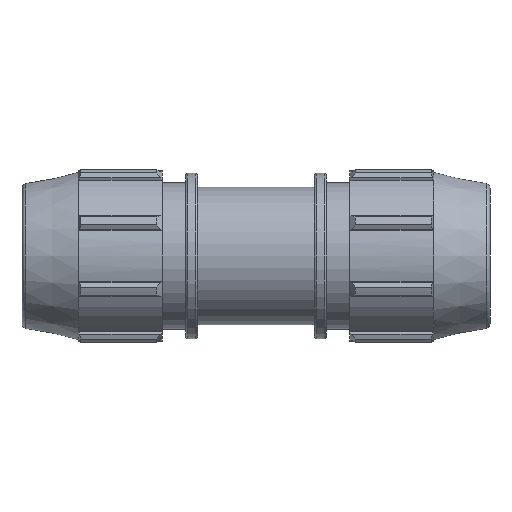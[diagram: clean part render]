
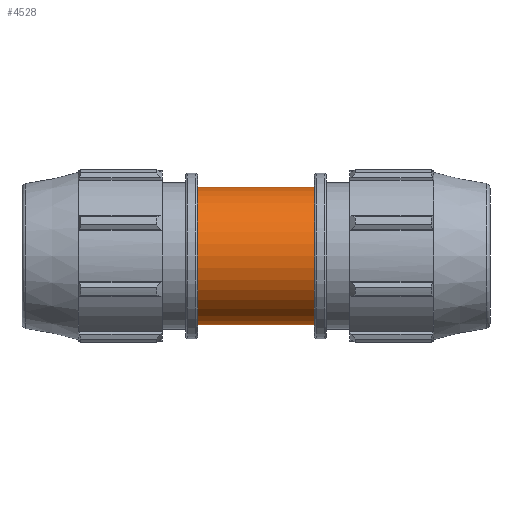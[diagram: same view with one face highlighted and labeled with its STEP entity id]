
A CAD part, front view. The second image highlights one B-rep face of the part: STEP entity #4528.
In plain terms, the highlighted cylindrical face has radius 24.003 mm (diameter 48.006 mm), a full revolution.
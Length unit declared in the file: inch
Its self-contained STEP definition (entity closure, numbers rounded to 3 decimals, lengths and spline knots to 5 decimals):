
#250=FACE_BOUND('',#1301,.T.);
#267=LINE('',#6711,#633);
#633=VECTOR('',#5263,0.945);
#998=CYLINDRICAL_SURFACE('',#4785,0.945);
#1065=FACE_OUTER_BOUND('',#1300,.T.);
#1300=EDGE_LOOP('',(#2944,#2945,#2946,#2947,#2948,#2949));
#1301=EDGE_LOOP('',(#2950));
#1550=B_SPLINE_CURVE_WITH_KNOTS('',3,(#6676,#6677,#6678,#6679,#6680,#6681,
#6682,#6683,#6684,#6685,#6686,#6687,#6688,#6689,#6690,#6691,#6692,#6693,
#6694,#6695,#6696),.UNSPECIFIED.,.T.,.F.,(4,1,1,1,1,1,1,1,1,1,1,1,1,1,1,
1,1,1,4),(-8.85278,-8.53661,-8.22044,-7.5881,
-6.74498,-6.32341,-5.48029,-5.05873,
-4.63717,-4.21561,-3.79405,-3.37249,
-2.52937,-2.21319,-1.89702,-1.26468,
-0.63234,-0.31617,0.),.UNSPECIFIED.);
#1570=CIRCLE('',#4786,0.945);
#1571=CIRCLE('',#4787,0.945);
#1572=CIRCLE('',#4788,0.945);
#1573=CIRCLE('',#4789,0.945);
#1793=VERTEX_POINT('',#6647);
#1799=VERTEX_POINT('',#6706);
#1800=VERTEX_POINT('',#6707);
#1801=VERTEX_POINT('',#6710);
#1802=VERTEX_POINT('',#6712);
#2255=EDGE_CURVE('',#1793,#1793,#1550,.T.);
#2260=EDGE_CURVE('',#1799,#1800,#1570,.T.);
#2261=EDGE_CURVE('',#1800,#1799,#1571,.T.);
#2262=EDGE_CURVE('',#1800,#1801,#267,.T.);
#2263=EDGE_CURVE('',#1801,#1802,#1572,.T.);
#2264=EDGE_CURVE('',#1802,#1801,#1573,.T.);
#2944=ORIENTED_EDGE('',*,*,#2260,.F.);
#2945=ORIENTED_EDGE('',*,*,#2261,.F.);
#2946=ORIENTED_EDGE('',*,*,#2262,.T.);
#2947=ORIENTED_EDGE('',*,*,#2263,.T.);
#2948=ORIENTED_EDGE('',*,*,#2264,.T.);
#2949=ORIENTED_EDGE('',*,*,#2262,.F.);
#2950=ORIENTED_EDGE('',*,*,#2255,.F.);
#4528=ADVANCED_FACE('',(#1065,#250),#998,.T.);
#4785=AXIS2_PLACEMENT_3D('',#6705,#5257,#5258);
#4786=AXIS2_PLACEMENT_3D('',#6708,#5259,#5260);
#4787=AXIS2_PLACEMENT_3D('',#6709,#5261,#5262);
#4788=AXIS2_PLACEMENT_3D('',#6713,#5264,#5265);
#4789=AXIS2_PLACEMENT_3D('',#6714,#5266,#5267);
#5257=DIRECTION('center_axis',(1.,0.,0.));
#5258=DIRECTION('ref_axis',(0.,1.,0.));
#5259=DIRECTION('center_axis',(1.,0.,0.));
#5260=DIRECTION('ref_axis',(0.,0.,-1.));
#5261=DIRECTION('center_axis',(1.,0.,0.));
#5262=DIRECTION('ref_axis',(0.,0.,-1.));
#5263=DIRECTION('',(-1.,0.,0.));
#5264=DIRECTION('center_axis',(1.,0.,0.));
#5265=DIRECTION('ref_axis',(0.,0.,-1.));
#5266=DIRECTION('center_axis',(1.,0.,0.));
#5267=DIRECTION('ref_axis',(0.,0.,-1.));
#6647=CARTESIAN_POINT('',(0.,0.74946,0.57562));
#6676=CARTESIAN_POINT('Ctrl Pts',(0.,0.74946,
0.57562));
#6677=CARTESIAN_POINT('Ctrl Pts',(0.04602,0.74946,
0.57562));
#6678=CARTESIAN_POINT('Ctrl Pts',(0.13804,0.75762,0.56542));
#6679=CARTESIAN_POINT('Ctrl Pts',(0.30754,0.79966,0.50609));
#6680=CARTESIAN_POINT('Ctrl Pts',(0.50332,0.88795,0.35695));
#6681=CARTESIAN_POINT('Ctrl Pts',(0.61133,0.95287,0.10627));
#6682=CARTESIAN_POINT('Ctrl Pts',(0.58648,0.93801,-0.19503));
#6683=CARTESIAN_POINT('Ctrl Pts',(0.46027,0.86505,-0.39677));
#6684=CARTESIAN_POINT('Ctrl Pts',(0.26745,0.7879,-0.52418));
#6685=CARTESIAN_POINT('Ctrl Pts',(0.09386,0.74787,
-0.57781));
#6686=CARTESIAN_POINT('Ctrl Pts',(-0.09386,0.74791,
-0.57785));
#6687=CARTESIAN_POINT('Ctrl Pts',(-0.26744,0.78792,
-0.52406));
#6688=CARTESIAN_POINT('Ctrl Pts',(-0.46025,0.86501,
-0.3971));
#6689=CARTESIAN_POINT('Ctrl Pts',(-0.57857,0.93366,-0.2072));
#6690=CARTESIAN_POINT('Ctrl Pts',(-0.60382,0.94809,
0.00008));
#6691=CARTESIAN_POINT('Ctrl Pts',(-0.58227,0.93559,
0.17724));
#6692=CARTESIAN_POINT('Ctrl Pts',(-0.48018,0.87713,
0.37399));
#6693=CARTESIAN_POINT('Ctrl Pts',(-0.30758,0.79984,
0.50632));
#6694=CARTESIAN_POINT('Ctrl Pts',(-0.13802,0.75756,
0.56534));
#6695=CARTESIAN_POINT('Ctrl Pts',(-0.04602,0.74946,
0.57562));
#6696=CARTESIAN_POINT('Ctrl Pts',(0.,0.74946,
0.57562));
#6705=CARTESIAN_POINT('Origin',(0.40125,0.,0.));
#6706=CARTESIAN_POINT('',(0.8025,0.945,0.));
#6707=CARTESIAN_POINT('',(0.8025,-0.945,0.));
#6708=CARTESIAN_POINT('Origin',(0.8025,0.,0.));
#6709=CARTESIAN_POINT('Origin',(0.8025,0.,0.));
#6710=CARTESIAN_POINT('',(-0.8025,-0.945,0.));
#6711=CARTESIAN_POINT('',(0.40125,-0.945,0.));
#6712=CARTESIAN_POINT('',(-0.8025,0.945,0.));
#6713=CARTESIAN_POINT('Origin',(-0.8025,0.,0.));
#6714=CARTESIAN_POINT('Origin',(-0.8025,0.,0.));
